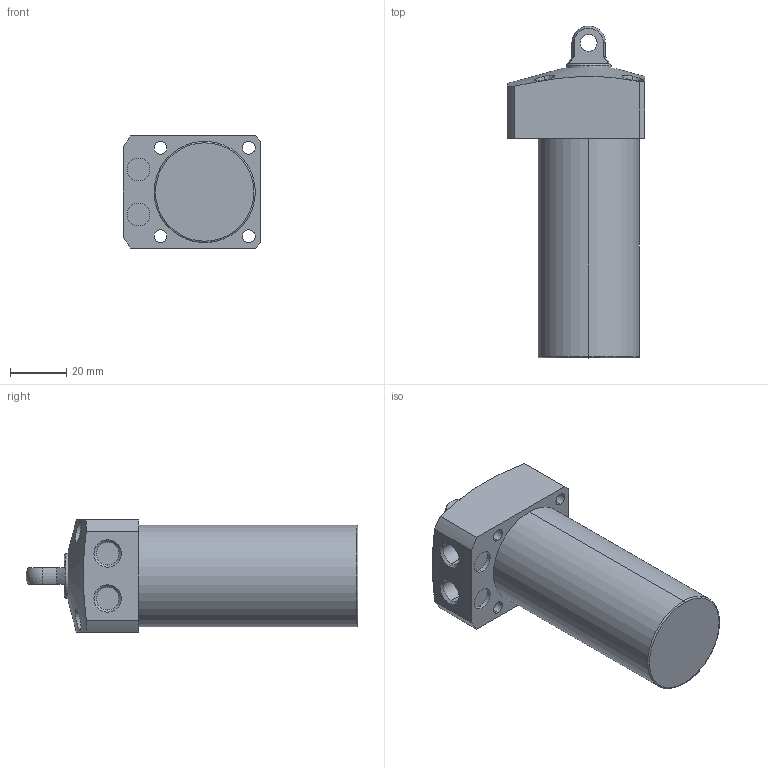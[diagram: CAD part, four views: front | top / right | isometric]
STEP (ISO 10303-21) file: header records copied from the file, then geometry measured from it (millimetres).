
FILE_DESCRIPTION (( 'STEP AP203' ), '1' );
FILE_NAME ('CLL036-CP-055.STEP', '2017-05-17T06:22:18', ( '' ), ( '' ), 'SwSTEP 2.0', 'SolidWorks 2015', '' );
FILE_SCHEMA (( 'CONFIG_CONTROL_DESIGN' ));
Length unit declared in the file: millimetre
Products named in the file (1): CLL036-CP-055
Bounding box: 49 x 118 x 40 mm (x, y, z)
Volume: 120783 mm3; surface area: 18869.4 mm2
Topology: 1 solids, 1 shells, 67 faces, 162 edges, 105 vertices
Faces by surface type: cylinder 34, plane 21, cone 8, sphere 2, torus 2
Entity records: 2347 total; most frequent: CARTESIAN_POINT 663, DIRECTION 354, ORIENTED_EDGE 316, EDGE_CURVE 158, AXIS2_PLACEMENT_3D 148, VERTEX_POINT 103, EDGE_LOOP 87, CIRCLE 80
